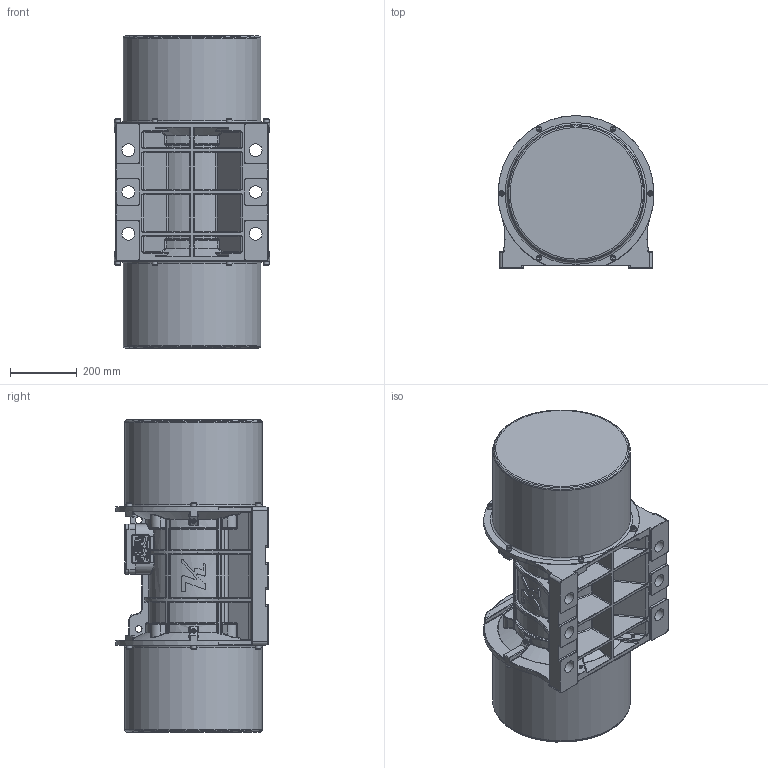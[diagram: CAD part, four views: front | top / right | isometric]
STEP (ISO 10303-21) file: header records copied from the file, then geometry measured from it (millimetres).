
FILE_DESCRIPTION(/* description */ (''),/* implementation_level */ '2;1');
FILE_NAME(/* name */ '10 NO C2 TAS.stp',/* time_stamp */ '2026-09-07T16:52:09+03:00',/* author */ ('PC'),/* organization */ (''),/* preprocessor_version */ 'ST-DEVELOPER v20.1',/* originating_system */ 'Autodesk Inventor 2026',/* authorisation */ '');
FILE_SCHEMA (('AUTOMOTIVE_DESIGN { 1 0 10303 214 3 1 1 }'));
Products named in the file (1): 10 NO C2 TAS
Bounding box: 464.95 x 455.5 x 933 mm (x, y, z)
Volume: 105410423.6 mm3; surface area: 2292514.5 mm2
Topology: 5 solids, 37 shells, 4819 faces, 12134 edges, 7589 vertices
Faces by surface type: plane 2089, bspline 1263, cylinder 764, torus 394, sphere 163, cone 146
Full cylindrical faces by diameter (mm): 4 x4, 6 x12, 6.647 x2, 6.917 x4, 8 x4, 8.183 x1, 8.27 x1, 8.376 x16, 8.5 x4, 10 x12, 10.5 x12, 13 x4, 16 x16, 18.5 x1, 18.6 x1, 20 x2, 21.3 x1, 22.5 x1, 28 x1, 32.2 x1, 38 x6, 64 x6, 411 x2
Entity records: 180476 total; most frequent: CARTESIAN_POINT 70490, ORIENTED_EDGE 24022, DIRECTION 19117, EDGE_CURVE 12011, VERTEX_POINT 7589, LINE 6653, VECTOR 6653, AXIS2_PLACEMENT_3D 6232
